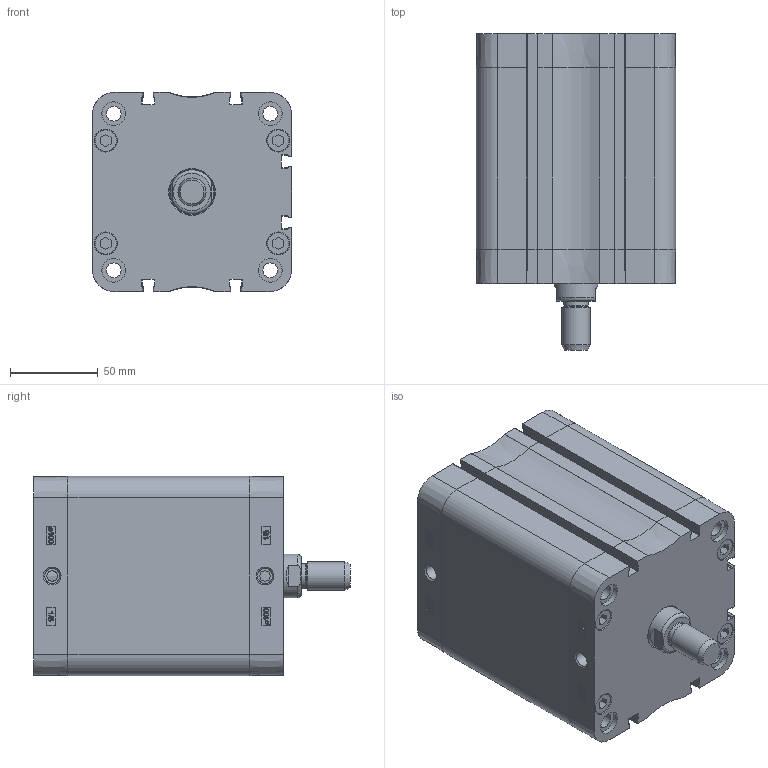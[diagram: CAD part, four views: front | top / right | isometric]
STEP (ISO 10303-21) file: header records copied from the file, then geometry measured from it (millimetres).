
FILE_DESCRIPTION((''),'2;1');
FILE_NAME('T:\Archivio Inventor\- CATALOGHI 2012\SERIE P - NUOVA\PDM\PDM100\PDM100.---.GS.M\PDM100.075.GS.M.stp','2013-02-05T11:43:19',('Administrator'),(''),'Autodesk Inventor 2012','Autodesk Inventor 2012','');
FILE_SCHEMA(('CONFIG_CONTROL_DESIGN'));
Length unit declared in the file: millimetre
Products named in the file (1): PDM100.075.GS.M
Bounding box: 113.3 x 180 x 113.3 mm (x, y, z)
Volume: 749272.3 mm3; surface area: 215490.6 mm2
Topology: 1 solids, 5 shells, 908 faces, 2136 edges, 1312 vertices
Faces by surface type: plane 371, bspline 226, cylinder 148, cone 81, torus 58, sphere 24
Full cylindrical faces by diameter (mm): 6 x2, 8.3 x4, 8.376 x8, 8.566 x2, 9.976 x4, 12 x1, 12.7 x8, 13.1 x8, 13.5 x8, 14 x1, 16 x1, 25 x1, 25.5 x1, 100 x1, 103.5 x1, 103.7 x1
Entity records: 29561 total; most frequent: CARTESIAN_POINT 9693, ORIENTED_EDGE 4030, DIRECTION 3400, EDGE_CURVE 2015, VERTEX_POINT 1291, AXIS2_PLACEMENT_3D 1208, EDGE_LOOP 1088, VECTOR 984
